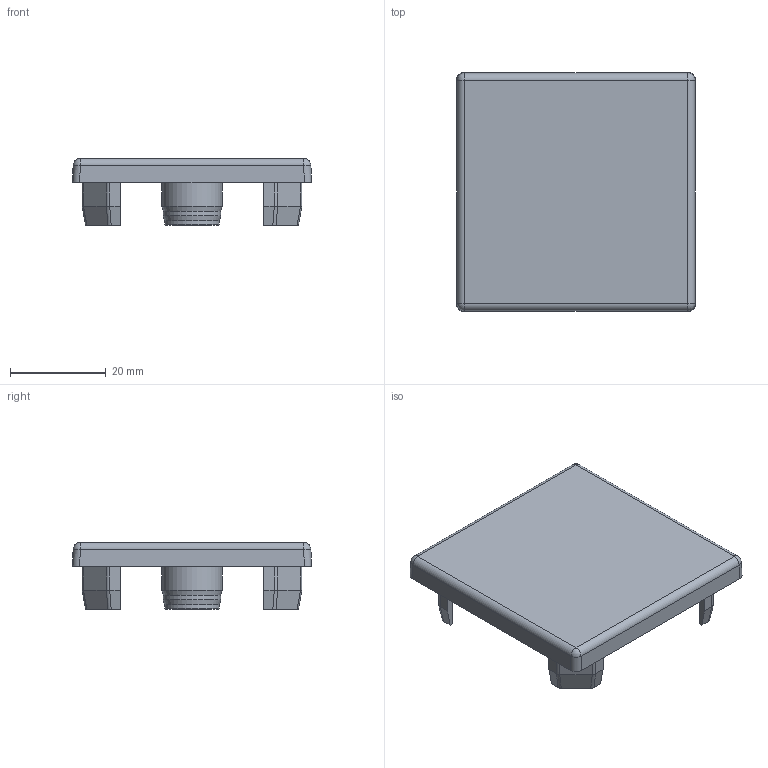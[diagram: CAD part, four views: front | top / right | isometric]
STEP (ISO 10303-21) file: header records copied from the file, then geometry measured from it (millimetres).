
FILE_DESCRIPTION(/* description */ (''),/* implementation_level */ '2;1');
FILE_NAME(/* name */ 'C:\Users\AMS43\Documents\Inventor\AMS\misumi\\X2\30A830F330C930AD30E330C330D7\X0\\ECP-5050-8.ipt.stp',/* time_stamp */ '2016-10-03T14:50:50+09:00',/* author */ ('AMS43'),/* organization */ (''),/* preprocessor_version */ 'ST-DEVELOPER v15.2',/* originating_system */ 'Autodesk Inventor 2014',/* authorisation */ '');
FILE_SCHEMA (('AUTOMOTIVE_DESIGN { 1 0 10303 214 3 1 1 }'));
Length unit declared in the file: metre
Products named in the file (1): ECP-5050-8
Bounding box: 50 x 50 x 14 mm (x, y, z)
Volume: 6684.7 mm3; surface area: 8475.6 mm2
Topology: 1 solids, 1 shells, 166 faces, 417 edges, 248 vertices
Faces by surface type: plane 85, cylinder 60, bspline 8, cone 6, sphere 4, torus 3
Full cylindrical faces by diameter (mm): 10.2 x1, 11.5 x1, 12 x1, 12.6 x1
Entity records: 4913 total; most frequent: CARTESIAN_POINT 969, DIRECTION 840, ORIENTED_EDGE 790, EDGE_CURVE 395, AXIS2_PLACEMENT_3D 286, LINE 268, VECTOR 268, VERTEX_POINT 247
